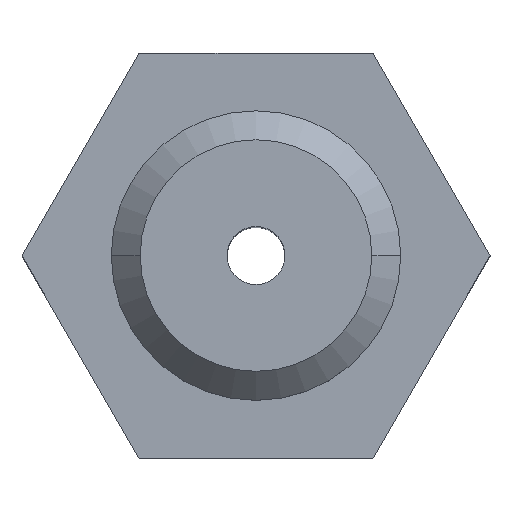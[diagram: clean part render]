
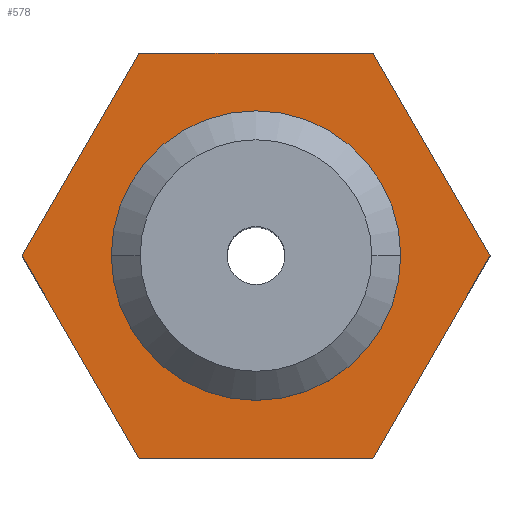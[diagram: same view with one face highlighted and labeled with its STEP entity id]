
A CAD part, top view. The second image highlights one B-rep face of the part: STEP entity #578.
In plain terms, the highlighted planar face has unit normal (0, 0, 1).
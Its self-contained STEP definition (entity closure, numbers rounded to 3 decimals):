
#1 = CARTESIAN_POINT ( 'NONE',  ( 8.083, 0., 5. ) ) ;
#13 = EDGE_LOOP ( 'NONE', ( #284, #516 ) ) ;
#22 = EDGE_CURVE ( 'NONE', #38, #417, #226, .T. ) ;
#38 = VERTEX_POINT ( 'NONE', #166 ) ;
#40 = CARTESIAN_POINT ( 'NONE',  ( 2.5, 0., 5. ) ) ;
#45 = FACE_OUTER_BOUND ( 'NONE', #492, .T. ) ;
#50 = CIRCLE ( 'NONE', #62, 2.5 ) ;
#52 = CARTESIAN_POINT ( 'NONE',  ( 0., 0., 5. ) ) ;
#60 = DIRECTION ( 'NONE',  ( 0., 0., 1. ) ) ;
#62 = AXIS2_PLACEMENT_3D ( 'NONE', #300, #60, #594 ) ;
#71 = CARTESIAN_POINT ( 'NONE',  ( 4.041, 7., 5. ) ) ;
#83 = ORIENTED_EDGE ( 'NONE', *, *, #463, .T. ) ;
#87 = VECTOR ( 'NONE', #102, 1000. ) ;
#102 = DIRECTION ( 'NONE',  ( -0.5, -0.866, 0. ) ) ;
#136 = VERTEX_POINT ( 'NONE', #573 ) ;
#139 = CARTESIAN_POINT ( 'NONE',  ( 8.083, 0., 5. ) ) ;
#148 = DIRECTION ( 'NONE',  ( 1., 0., 0. ) ) ;
#166 = CARTESIAN_POINT ( 'NONE',  ( 4.041, 7., 5. ) ) ;
#170 = ORIENTED_EDGE ( 'NONE', *, *, #326, .T. ) ;
#172 = ORIENTED_EDGE ( 'NONE', *, *, #22, .T. ) ;
#178 = EDGE_CURVE ( 'NONE', #234, #518, #331, .T. ) ;
#180 = LINE ( 'NONE', #139, #511 ) ;
#193 = FACE_BOUND ( 'NONE', #13, .T. ) ;
#195 = DIRECTION ( 'NONE',  ( 1., 0., 0. ) ) ;
#226 = LINE ( 'NONE', #71, #627 ) ;
#229 = EDGE_CURVE ( 'NONE', #518, #38, #180, .T. ) ;
#232 = LINE ( 'NONE', #429, #566 ) ;
#233 = CIRCLE ( 'NONE', #452, 2.5 ) ;
#234 = VERTEX_POINT ( 'NONE', #624 ) ;
#243 = VERTEX_POINT ( 'NONE', #468 ) ;
#245 = PLANE ( 'NONE',  #427 ) ;
#260 = ORIENTED_EDGE ( 'NONE', *, *, #305, .T. ) ;
#284 = ORIENTED_EDGE ( 'NONE', *, *, #349, .F. ) ;
#300 = CARTESIAN_POINT ( 'NONE',  ( 0., 0., 5. ) ) ;
#305 = EDGE_CURVE ( 'NONE', #485, #136, #232, .T. ) ;
#326 = EDGE_CURVE ( 'NONE', #417, #485, #542, .T. ) ;
#328 = CARTESIAN_POINT ( 'NONE',  ( 4.041, -7., 5. ) ) ;
#331 = LINE ( 'NONE', #328, #405 ) ;
#340 = ORIENTED_EDGE ( 'NONE', *, *, #178, .T. ) ;
#349 = EDGE_CURVE ( 'NONE', #243, #572, #233, .T. ) ;
#354 = VECTOR ( 'NONE', #148, 1000. ) ;
#405 = VECTOR ( 'NONE', #424, 1000. ) ;
#406 = CARTESIAN_POINT ( 'NONE',  ( -8.083, 0., 5. ) ) ;
#414 = DIRECTION ( 'NONE',  ( -1., 0., 0. ) ) ;
#417 = VERTEX_POINT ( 'NONE', #493 ) ;
#424 = DIRECTION ( 'NONE',  ( 0.5, 0.866, 0. ) ) ;
#427 = AXIS2_PLACEMENT_3D ( 'NONE', #479, #476, #626 ) ;
#429 = CARTESIAN_POINT ( 'NONE',  ( -8.083, 0., 5. ) ) ;
#432 = ORIENTED_EDGE ( 'NONE', *, *, #229, .T. ) ;
#449 = DIRECTION ( 'NONE',  ( 0.5, -0.866, 0. ) ) ;
#451 = LINE ( 'NONE', #550, #354 ) ;
#452 = AXIS2_PLACEMENT_3D ( 'NONE', #52, #592, #195 ) ;
#463 = EDGE_CURVE ( 'NONE', #136, #234, #451, .T. ) ;
#468 = CARTESIAN_POINT ( 'NONE',  ( -2.5, 0., 5. ) ) ;
#473 = EDGE_CURVE ( 'NONE', #572, #243, #50, .T. ) ;
#476 = DIRECTION ( 'NONE',  ( 0., 0., 1. ) ) ;
#479 = CARTESIAN_POINT ( 'NONE',  ( 0., 0., 5. ) ) ;
#485 = VERTEX_POINT ( 'NONE', #406 ) ;
#487 = CARTESIAN_POINT ( 'NONE',  ( -4.041, 7., 5. ) ) ;
#492 = EDGE_LOOP ( 'NONE', ( #340, #432, #172, #170, #260, #83 ) ) ;
#493 = CARTESIAN_POINT ( 'NONE',  ( -4.041, 7., 5. ) ) ;
#511 = VECTOR ( 'NONE', #533, 1000. ) ;
#516 = ORIENTED_EDGE ( 'NONE', *, *, #473, .F. ) ;
#518 = VERTEX_POINT ( 'NONE', #1 ) ;
#533 = DIRECTION ( 'NONE',  ( -0.5, 0.866, 0. ) ) ;
#542 = LINE ( 'NONE', #487, #87 ) ;
#550 = CARTESIAN_POINT ( 'NONE',  ( -4.041, -7., 5. ) ) ;
#566 = VECTOR ( 'NONE', #449, 1000. ) ;
#572 = VERTEX_POINT ( 'NONE', #40 ) ;
#573 = CARTESIAN_POINT ( 'NONE',  ( -4.041, -7., 5. ) ) ;
#578 = ADVANCED_FACE ( 'NONE', ( #193, #45 ), #245, .T. ) ;
#592 = DIRECTION ( 'NONE',  ( 0., 0., 1. ) ) ;
#594 = DIRECTION ( 'NONE',  ( 1., 0., 0. ) ) ;
#624 = CARTESIAN_POINT ( 'NONE',  ( 4.041, -7., 5. ) ) ;
#626 = DIRECTION ( 'NONE',  ( 1., 0., 0. ) ) ;
#627 = VECTOR ( 'NONE', #414, 1000. ) ;
